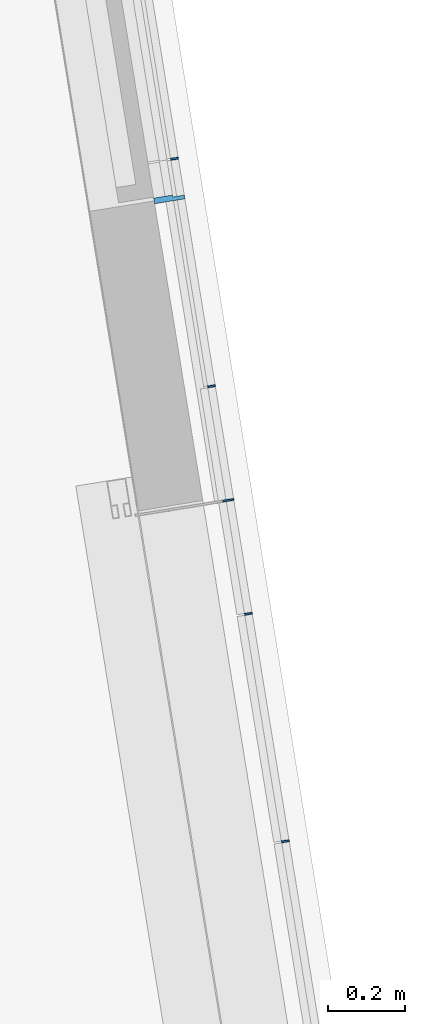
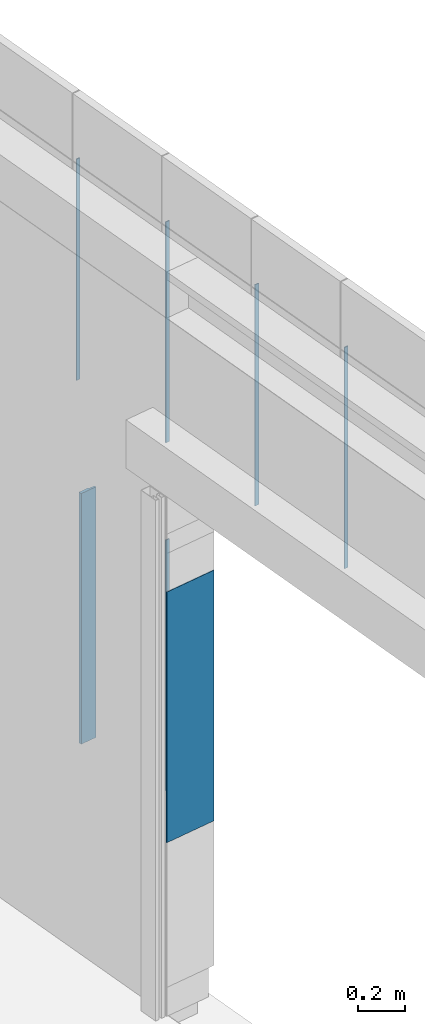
# One storey, part 3 of 38: 7 members, 1 element without a shape of its own.
"""IFC2X3 building model written with IfcOpenShell, lengths in millimetres."""

from ifc_helpers import new_model, entity, si_unit, converted_unit, derived_unit, direction, frame, origin, origin_with_axes, origin_2d_with_axis, place, context, subcontext, project, spatial, polyline, rectangle, outline, extrude, source, transform, mapped, material, type_object, element, aggregate, save


model = new_model("IFC2X3")

# Units and contexts
model_context = context("Model", 3, precision=0.01, world=origin(), true_north=direction((6.12323399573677e-17, 1.0)))
plan_context = context("Plan", 3, precision=1e-05, world=origin_with_axes())
body_context = subcontext(model_context, "Body", "Model", "MODEL_VIEW")
ifc_project = project(units=[converted_unit("PLANEANGLEUNIT", "DEGREE", entity("IfcPositiveLengthMeasure", 0.0174532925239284), si_unit("PLANEANGLEUNIT", "RADIAN"), dimensions=[0, 0, 0, 0, 0, 0, 0]), si_unit("AREAUNIT", "SQUARE_METRE"), si_unit("LENGTHUNIT", "METRE", prefix="MILLI"), si_unit("MASSUNIT", "GRAM", prefix="KILO"), si_unit("POWERUNIT", "WATT"), si_unit("PRESSUREUNIT", "PASCAL", prefix="KILO"), si_unit("FORCEUNIT", "NEWTON", prefix="KILO"), si_unit("ELECTRICVOLTAGEUNIT", "VOLT"), si_unit("ELECTRICCURRENTUNIT", "AMPERE"), si_unit("THERMODYNAMICTEMPERATUREUNIT", "DEGREE_CELSIUS"), si_unit("TIMEUNIT", "SECOND"), si_unit("VOLUMEUNIT", "CUBIC_METRE"), derived_unit("LINEARVELOCITYUNIT", [(si_unit("LENGTHUNIT", "METRE"), 1), (si_unit("TIMEUNIT", "SECOND"), -1)]), derived_unit("VOLUMETRICFLOWRATEUNIT", [(si_unit("VOLUMEUNIT", "CUBIC_METRE"), 1), (si_unit("TIMEUNIT", "SECOND"), -1)]), derived_unit("THERMALTRANSMITTANCEUNIT", [(si_unit("POWERUNIT", "WATT"), 1), (si_unit("THERMODYNAMICTEMPERATUREUNIT", "KELVIN"), -1), (si_unit("AREAUNIT", "SQUARE_METRE"), -1)]), derived_unit("SOUNDPRESSUREUNIT", [(si_unit("PRESSUREUNIT", "PASCAL"), 1)])], contexts=[model_context, plan_context])

# Site, building, storey
site_placement = place(None, frame((-0.00071070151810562, 0.00438415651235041, 0.0), z_axis=(0.0, 0.0, 1.0), x_axis=(-0.160236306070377, 0.987078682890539, 0.0)))
site = spatial("IfcSite", under=ifc_project, at=site_placement, Name="Default", CompositionType="ELEMENT")
building_placement = place(site_placement, origin_with_axes())
building = spatial("IfcBuilding", under=site, at=building_placement, Name="TOO", CompositionType="ELEMENT")
storey_placement = place(building_placement, frame((0.0, 0.0, 50999.9999999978), z_axis=(0.0, 0.0, 1.0), x_axis=(1.0, 0.0, 0.0)))
storey = spatial("IfcBuildingStorey", under=building, at=storey_placement, Name="Nivå D-H01", CompositionType="ELEMENT", Elevation=50999.9999999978)

# Curtain wall, members
curtain_wall_type = type_object("IfcCurtainWallType", Name="Curtain Wall:Curtain Wall Standard (Bruk kun denne)", PredefinedType="NOTDEFINED")
curtain_wall_placement = place(storey_placement, frame((0.0, 0.0, -50999.9999999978), z_axis=(0.0, 0.0, 1.0), x_axis=(1.0, 0.0, 0.0)))
curtain_wall = element("IfcCurtainWall", 1, at=curtain_wall_placement, inside=storey, type_object=curtain_wall_type, Name="Curtain Wall:Curtain Wall Standard (Bruk kun denne)", ObjectType="Curtain Wall:Curtain Wall Standard (Bruk kun denne)")
ifc_material_1 = material(Name="A200 - Metall - Stål")
member_type_1 = type_object("IfcMemberType", Name="Rectangular Mullion:A248-M03 kantbeskyt. åpning 260", PredefinedType="MULLION", material=ifc_material_1)
shared_shape_1 = source(origin(), body_context, "Body", "SweptSolid", [
    extrude(rectangle(XDim=5.0, YDim=260.0, at=origin_2d_with_axis()), frame((0.0, 130.0, -1300.0), z_axis=(0.0, 0.0, 1.0), x_axis=(-1.0, 0.0, 0.0)), (0.0, 0.0, 1.0), 1300.0),
])
member_1_placement = place(curtain_wall_placement, frame((777477.619644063, -604232.480498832, 51899.9999999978), z_axis=(0.0, 0.0, -1.0), x_axis=(-1.0, 0.0, 0.0)))
member_1 = element("IfcMember", 2, at=member_1_placement, type_object=member_type_1, material=ifc_material_1, Name="Rectangular Mullion:A248-M03 kantbeskyt. åpning 260", ObjectType="Rectangular Mullion:A248-M03 kantbeskyt. åpning 260", context=body_context, shape_type="MappedRepresentation", body=[
    mapped(shared_shape_1, transform((0.0, 0.0, 0.0), scale=1.0)),
])
ifc_material_2 = material(Name="Rubber")
member_type_2 = type_object("IfcMemberType", Name="Rectangular Mullion:A246 - Fuge 5mm L09", PredefinedType="MULLION", material=ifc_material_2)
shared_shape_2 = source(origin(), body_context, "Body", "SweptSolid", [
    extrude(rectangle(XDim=5.0, YDim=20.0, at=origin_2d_with_axis()), frame((0.0, 10.0, -1147.50000000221), z_axis=(0.0, 0.0, 1.0), x_axis=(-1.0, 0.0, 0.0)), (0.0, 0.0, 1.0), 1147.50000000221),
])
member_2_placement = place(curtain_wall_placement, frame((777177.619644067, -604232.480498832, 53702.4999999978), z_axis=(0.0, 0.0, -1.0), x_axis=(-1.0, 0.0, 0.0)))
member_2 = element("IfcMember", 3, at=member_2_placement, type_object=member_type_2, material=ifc_material_2, Name="Rectangular Mullion:A246 - Fuge 5mm L09", ObjectType="Rectangular Mullion:A246 - Fuge 5mm L09", context=body_context, shape_type="MappedRepresentation", body=[
    mapped(shared_shape_2, transform((0.0, 0.0, 0.0), scale=1.0)),
])
member_3_placement = place(curtain_wall_placement, frame((776577.619644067, -604232.480498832, 53702.4999999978), z_axis=(0.0, 0.0, -1.0), x_axis=(-1.0, 0.0, 0.0)))
member_3 = element("IfcMember", 4, at=member_3_placement, type_object=member_type_2, material=ifc_material_2, Name="Rectangular Mullion:A246 - Fuge 5mm L09", ObjectType="Rectangular Mullion:A246 - Fuge 5mm L09", context=body_context, shape_type="MappedRepresentation", body=[
    mapped(shared_shape_2, transform((0.0, 0.0, 0.0), scale=1.0)),
])
member_4_placement = place(curtain_wall_placement, frame((778377.619644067, -604232.480498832, 53702.4999999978), z_axis=(0.0, 0.0, -1.0), x_axis=(-1.0, 0.0, 0.0)))
member_4 = element("IfcMember", 5, at=member_4_placement, type_object=member_type_2, material=ifc_material_2, Name="Rectangular Mullion:A246 - Fuge 5mm L09", ObjectType="Rectangular Mullion:A246 - Fuge 5mm L09", context=body_context, shape_type="MappedRepresentation", body=[
    mapped(shared_shape_2, transform((0.0, 0.0, 0.0), scale=1.0)),
])
member_type_3 = type_object("IfcMemberType", Name="Rectangular Mullion:A246 - Fuge 5mm L09", PredefinedType="MULLION", material=ifc_material_2)
shared_shape_3 = source(origin(), body_context, "Body", "SweptSolid", [
    extrude(rectangle(XDim=5.0, YDim=20.0, at=origin_2d_with_axis()), frame((0.0, 10.0, -1145.00000000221), z_axis=(0.0, 0.0, 1.0), x_axis=(-1.0, 0.0, 0.0)), (0.0, 0.0, 1.0), 1145.00000000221),
])
member_5_placement = place(curtain_wall_placement, frame((777777.619644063, -604232.480498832, 53704.9999999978), z_axis=(0.0, 0.0, -1.0), x_axis=(-1.0, 0.0, 0.0)))
member_5 = element("IfcMember", 6, at=member_5_placement, type_object=member_type_3, material=ifc_material_2, Name="Rectangular Mullion:A246 - Fuge 5mm L09", ObjectType="Rectangular Mullion:A246 - Fuge 5mm L09", context=body_context, shape_type="MappedRepresentation", body=[
    mapped(shared_shape_3, transform((0.0, 0.0, 0.0), scale=1.0)),
])
member_type_4 = type_object("IfcMemberType", Name="Rectangular Mullion:A246 - Fuge 5mm L09", PredefinedType="MULLION", material=ifc_material_2)
shared_shape_4 = source(origin(), body_context, "Body", "SweptSolid", [
    extrude(rectangle(XDim=5.0, YDim=20.0, at=origin_2d_with_axis()), frame((0.0, 10.0, -1300.0), z_axis=(0.0, 0.0, 1.0), x_axis=(-1.0, 0.0, 0.0)), (0.0, 0.0, 1.0), 1300.0),
])
member_6_placement = place(curtain_wall_placement, frame((777777.619644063, -604232.480498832, 51899.9999999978), z_axis=(0.0, 0.0, -1.0), x_axis=(-1.0, 0.0, 0.0)))
member_6 = element("IfcMember", 7, at=member_6_placement, type_object=member_type_4, material=ifc_material_2, Name="Rectangular Mullion:A246 - Fuge 5mm L09", ObjectType="Rectangular Mullion:A246 - Fuge 5mm L09", context=body_context, shape_type="MappedRepresentation", body=[
    mapped(shared_shape_4, transform((0.0, 0.0, 0.0), scale=1.0)),
])
member_type_5 = type_object("IfcMemberType", Name="Rectangular Mullion:A248-M11 vinkelprofil 80 venstre", PredefinedType="MULLION", material=ifc_material_1)
shared_shape_5 = source(origin(), body_context, "Body", "SweptSolid", [
    extrude(outline(polyline([(-8.33333333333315, -43.3333333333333), (6.66666666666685, -43.3333333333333), (6.66666666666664, 6.66666666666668), (1.66666666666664, 6.66666666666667), (1.66666666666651, 36.6666666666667), (-8.33333333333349, 36.6666666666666), (-8.33333333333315, -43.3333333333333)])), frame((-0.833333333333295, 36.6666666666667, -1300.0), z_axis=(0.0, 0.0, 1.0), x_axis=(-1.0, 0.0, 0.0)), (0.0, 0.0, 1.0), 1300.0),
])
member_7_placement = place(curtain_wall_placement, frame((778277.619644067, -604232.480498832, 51899.9999999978), z_axis=(0.0, 0.0, -1.0), x_axis=(-1.0, 0.0, 0.0)))
member_7 = element("IfcMember", 8, at=member_7_placement, type_object=member_type_5, material=ifc_material_1, Name="Rectangular Mullion:A248-M11 vinkelprofil 80 venstre", ObjectType="Rectangular Mullion:A248-M11 vinkelprofil 80 venstre", context=body_context, shape_type="MappedRepresentation", body=[
    mapped(shared_shape_5, transform((0.0, 0.0, 0.0), scale=1.0)),
])
aggregate(curtain_wall, [member_1, member_2, member_3, member_7, member_4, member_5, member_6])

save(model, "model.ifc")
